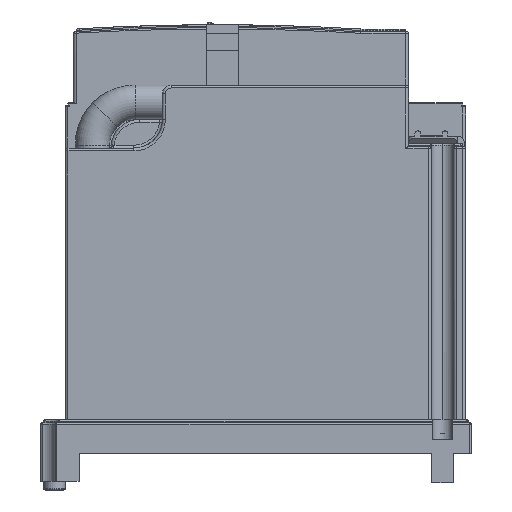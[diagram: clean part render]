
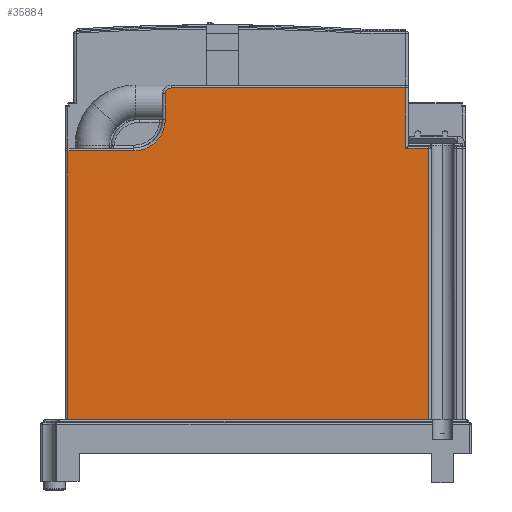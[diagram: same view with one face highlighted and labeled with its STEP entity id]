
A CAD part, left-side view. The second image highlights one B-rep face of the part: STEP entity #35884.
In plain terms, the highlighted planar face has unit normal (-1, 0, 0) as drawn and (0, 1, 0) by its records, which use the part's own axes.
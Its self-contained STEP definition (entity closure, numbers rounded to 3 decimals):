
#332 = CARTESIAN_POINT ( 'NONE',  ( -60.113, 65., -1.55 ) ) ;
#553 = AXIS2_PLACEMENT_3D ( 'NONE', #32129, #46491, #47241 ) ;
#609 = DIRECTION ( 'NONE',  ( 0., 0., -1. ) ) ;
#851 = VECTOR ( 'NONE', #3892, 1000. ) ;
#1099 = EDGE_CURVE ( 'NONE', #8446, #38754, #7855, .T. ) ;
#1532 = PLANE ( 'NONE',  #14386 ) ;
#1970 = AXIS2_PLACEMENT_3D ( 'NONE', #13971, #21392, #40450 ) ;
#3261 = DIRECTION ( 'NONE',  ( -1., 0., 0. ) ) ;
#3768 = LINE ( 'NONE', #41417, #48557 ) ;
#3892 = DIRECTION ( 'NONE',  ( -1., 0., 0. ) ) ;
#5790 = VECTOR ( 'NONE', #609, 1000. ) ;
#6106 = CARTESIAN_POINT ( 'NONE',  ( 31.91, 65., 103.45 ) ) ;
#6441 = CARTESIAN_POINT ( 'NONE',  ( 42.91, 65., 92.45 ) ) ;
#6542 = CARTESIAN_POINT ( 'NONE',  ( 29.91, 65., 114.45 ) ) ;
#7555 = ORIENTED_EDGE ( 'NONE', *, *, #13859, .F. ) ;
#7675 = ORIENTED_EDGE ( 'NONE', *, *, #18248, .F. ) ;
#7855 = LINE ( 'NONE', #45981, #851 ) ;
#8187 = DIRECTION ( 'NONE',  ( 0., 0., 1. ) ) ;
#8446 = VERTEX_POINT ( 'NONE', #39027 ) ;
#9786 = CARTESIAN_POINT ( 'NONE',  ( 29.91, 65., 114.45 ) ) ;
#10823 = ORIENTED_EDGE ( 'NONE', *, *, #34625, .F. ) ;
#11378 = CARTESIAN_POINT ( 'NONE',  ( 31.91, 65., 103.45 ) ) ;
#11433 = VECTOR ( 'NONE', #13727, 1000. ) ;
#11644 = CIRCLE ( 'NONE', #553, 11. ) ;
#11768 = CARTESIAN_POINT ( 'NONE',  ( 65.91, 65., 92.45 ) ) ;
#11926 = ORIENTED_EDGE ( 'NONE', *, *, #45501, .T. ) ;
#13727 = DIRECTION ( 'NONE',  ( 0., 0., -1. ) ) ;
#13740 = CARTESIAN_POINT ( 'NONE',  ( 65.91, 65., 92.45 ) ) ;
#13859 = EDGE_CURVE ( 'NONE', #20155, #8446, #16956, .T. ) ;
#13971 = CARTESIAN_POINT ( 'NONE',  ( 29.91, 65., 112.45 ) ) ;
#14386 = AXIS2_PLACEMENT_3D ( 'NONE', #15925, #28063, #31751 ) ;
#15255 = LINE ( 'NONE', #30357, #5790 ) ;
#15345 = DIRECTION ( 'NONE',  ( 0., 0., 1. ) ) ;
#15925 = CARTESIAN_POINT ( 'NONE',  ( 66.91, 65., 130.45 ) ) ;
#16121 = CARTESIAN_POINT ( 'NONE',  ( -52.09, 65., 114.45 ) ) ;
#16661 = EDGE_CURVE ( 'NONE', #44956, #29120, #11644, .T. ) ;
#16956 = LINE ( 'NONE', #32293, #11433 ) ;
#17407 = CARTESIAN_POINT ( 'NONE',  ( -60.113, 65., 93.45 ) ) ;
#18248 = EDGE_CURVE ( 'NONE', #44517, #20155, #37240, .T. ) ;
#18988 = ORIENTED_EDGE ( 'NONE', *, *, #46385, .T. ) ;
#19095 = CARTESIAN_POINT ( 'NONE',  ( 65.91, 65., -1.55 ) ) ;
#20155 = VERTEX_POINT ( 'NONE', #16121 ) ;
#21294 = EDGE_CURVE ( 'NONE', #44956, #45635, #33902, .T. ) ;
#21392 = DIRECTION ( 'NONE',  ( 0., 1., 0. ) ) ;
#25436 = ORIENTED_EDGE ( 'NONE', *, *, #44475, .F. ) ;
#25442 = ORIENTED_EDGE ( 'NONE', *, *, #1099, .F. ) ;
#28063 = DIRECTION ( 'NONE',  ( 0., -1., 0. ) ) ;
#28529 = VERTEX_POINT ( 'NONE', #332 ) ;
#29120 = VERTEX_POINT ( 'NONE', #6441 ) ;
#29899 = ORIENTED_EDGE ( 'NONE', *, *, #31892, .F. ) ;
#30357 = CARTESIAN_POINT ( 'NONE',  ( -60.113, 65., 93.45 ) ) ;
#30490 = LINE ( 'NONE', #34456, #46698 ) ;
#31751 = DIRECTION ( 'NONE',  ( 1., 0., 0. ) ) ;
#31892 = EDGE_CURVE ( 'NONE', #32109, #29120, #45709, .T. ) ;
#32109 = VERTEX_POINT ( 'NONE', #13740 ) ;
#32129 = CARTESIAN_POINT ( 'NONE',  ( 42.91, 65., 103.45 ) ) ;
#32273 = EDGE_LOOP ( 'NONE', ( #25442, #7555, #7675, #18988, #48058, #38863, #29899, #10823, #11926, #25436 ) ) ;
#32293 = CARTESIAN_POINT ( 'NONE',  ( -52.09, 65., 114.45 ) ) ;
#33232 = VECTOR ( 'NONE', #36514, 1000. ) ;
#33902 = LINE ( 'NONE', #11378, #40488 ) ;
#34456 = CARTESIAN_POINT ( 'NONE',  ( 65.91, 65., -1.55 ) ) ;
#34625 = EDGE_CURVE ( 'NONE', #36159, #32109, #30490, .T. ) ;
#35727 = FACE_OUTER_BOUND ( 'NONE', #32273, .T. ) ;
#35884 = ADVANCED_FACE ( 'NONE', ( #35727 ), #1532, .F. ) ;
#36159 = VERTEX_POINT ( 'NONE', #19095 ) ;
#36514 = DIRECTION ( 'NONE',  ( -1., 0., 0. ) ) ;
#37240 = LINE ( 'NONE', #6542, #33232 ) ;
#38754 = VERTEX_POINT ( 'NONE', #17407 ) ;
#38863 = ORIENTED_EDGE ( 'NONE', *, *, #16661, .T. ) ;
#39027 = CARTESIAN_POINT ( 'NONE',  ( -52.09, 65., 93.45 ) ) ;
#40450 = DIRECTION ( 'NONE',  ( 0., 0., 1. ) ) ;
#40488 = VECTOR ( 'NONE', #15345, 1000. ) ;
#41417 = CARTESIAN_POINT ( 'NONE',  ( 65.91, 65., -1.55 ) ) ;
#41978 = DIRECTION ( 'NONE',  ( -1., 0., 0. ) ) ;
#44475 = EDGE_CURVE ( 'NONE', #38754, #28529, #15255, .T. ) ;
#44517 = VERTEX_POINT ( 'NONE', #9786 ) ;
#44956 = VERTEX_POINT ( 'NONE', #6106 ) ;
#45494 = CIRCLE ( 'NONE', #1970, 2. ) ;
#45501 = EDGE_CURVE ( 'NONE', #36159, #28529, #3768, .T. ) ;
#45635 = VERTEX_POINT ( 'NONE', #47827 ) ;
#45709 = LINE ( 'NONE', #11768, #48877 ) ;
#45981 = CARTESIAN_POINT ( 'NONE',  ( -52.09, 65., 93.45 ) ) ;
#46385 = EDGE_CURVE ( 'NONE', #44517, #45635, #45494, .T. ) ;
#46491 = DIRECTION ( 'NONE',  ( 0., -1., 0. ) ) ;
#46698 = VECTOR ( 'NONE', #8187, 1000. ) ;
#47241 = DIRECTION ( 'NONE',  ( -1., 0., 0. ) ) ;
#47827 = CARTESIAN_POINT ( 'NONE',  ( 31.91, 65., 112.45 ) ) ;
#48058 = ORIENTED_EDGE ( 'NONE', *, *, #21294, .F. ) ;
#48557 = VECTOR ( 'NONE', #3261, 1000. ) ;
#48877 = VECTOR ( 'NONE', #41978, 1000. ) ;
